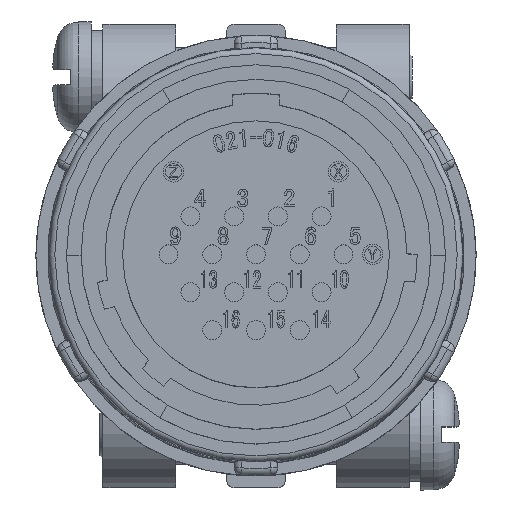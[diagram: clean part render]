
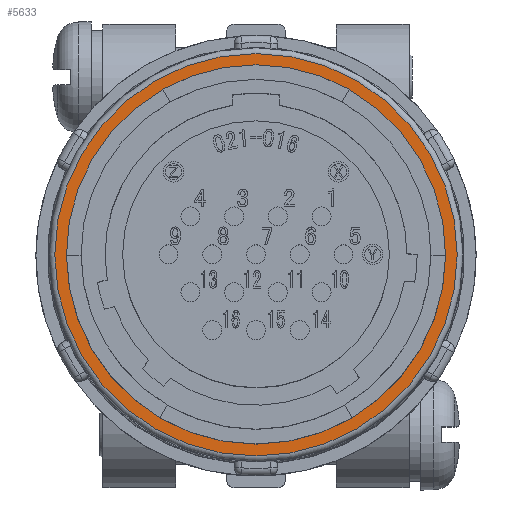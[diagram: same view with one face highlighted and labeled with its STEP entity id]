
A CAD part, top view. The second image highlights one B-rep face of the part: STEP entity #5633.
In plain terms, the highlighted planar face has unit normal (0, 0, 1).
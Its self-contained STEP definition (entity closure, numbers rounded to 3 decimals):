
#2958 = EDGE_CURVE ( 'NONE', #43626, #43626, #59620, .T. ) ;
#5355 = DIRECTION ( 'NONE',  ( 0., 0., -1. ) ) ;
#5633 = ADVANCED_FACE ( 'NONE', ( #64620, #51202 ), #61102, .F. ) ;
#6493 = EDGE_LOOP ( 'NONE', ( #20861 ) ) ;
#8326 = AXIS2_PLACEMENT_3D ( 'NONE', #55592, #5355, #60653 ) ;
#10035 = EDGE_LOOP ( 'NONE', ( #26025 ) ) ;
#12383 = DIRECTION ( 'NONE',  ( 0., 0., -1. ) ) ;
#16980 = DIRECTION ( 'NONE',  ( 0., 0., 1. ) ) ;
#19718 = AXIS2_PLACEMENT_3D ( 'NONE', #32432, #12383, #37530 ) ;
#20861 = ORIENTED_EDGE ( 'NONE', *, *, #22877, .T. ) ;
#22270 = DIRECTION ( 'NONE',  ( 1., 0., 0. ) ) ;
#22877 = EDGE_CURVE ( 'NONE', #41195, #41195, #41121, .T. ) ;
#24686 = CARTESIAN_POINT ( 'NONE',  ( -11.98, 0., -19.2 ) ) ;
#26025 = ORIENTED_EDGE ( 'NONE', *, *, #2958, .T. ) ;
#32432 = CARTESIAN_POINT ( 'NONE',  ( 0., 0., -19.2 ) ) ;
#37051 = CARTESIAN_POINT ( 'NONE',  ( 0., 0., -19.2 ) ) ;
#37530 = DIRECTION ( 'NONE',  ( -1., 0., 0. ) ) ;
#41121 = CIRCLE ( 'NONE', #19718, 11.98 ) ;
#41195 = VERTEX_POINT ( 'NONE', #24686 ) ;
#43626 = VERTEX_POINT ( 'NONE', #58833 ) ;
#51202 = FACE_OUTER_BOUND ( 'NONE', #10035, .T. ) ;
#55498 = AXIS2_PLACEMENT_3D ( 'NONE', #37051, #16980, #22270 ) ;
#55592 = CARTESIAN_POINT ( 'NONE',  ( 0., 12.15, -19.2 ) ) ;
#58833 = CARTESIAN_POINT ( 'NONE',  ( 13.8, 0., -19.2 ) ) ;
#59620 = CIRCLE ( 'NONE', #55498, 13.8 ) ;
#60653 = DIRECTION ( 'NONE',  ( -1., 0., 0. ) ) ;
#61102 = PLANE ( 'NONE',  #8326 ) ;
#64620 = FACE_BOUND ( 'NONE', #6493, .T. ) ;
